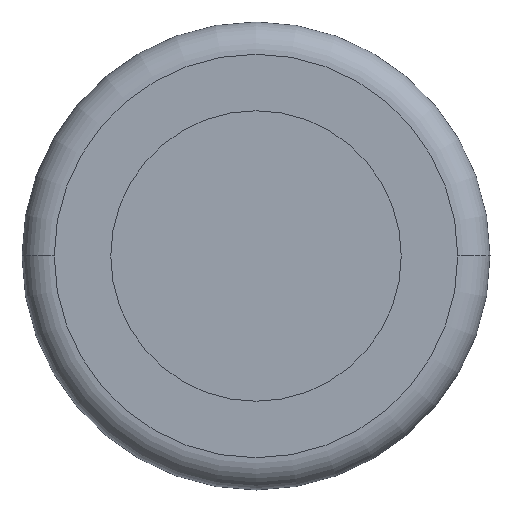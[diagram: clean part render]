
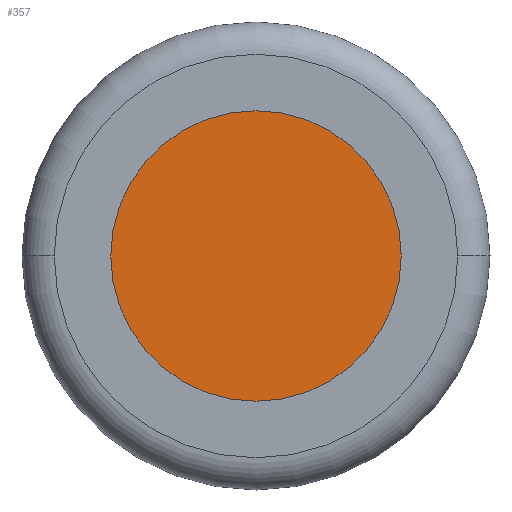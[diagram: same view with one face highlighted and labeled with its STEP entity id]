
A CAD part, front view. The second image highlights one B-rep face of the part: STEP entity #357.
In plain terms, the highlighted planar face has unit normal (0, -1, 0).
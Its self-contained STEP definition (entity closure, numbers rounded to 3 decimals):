
#303=CARTESIAN_POINT('',(47.779,27.5,-3.5));
#304=VERTEX_POINT('',#303);
#312=CARTESIAN_POINT('',(29.779,27.5,-3.5));
#313=VERTEX_POINT('',#312);
#320=CARTESIAN_POINT('',(38.779,27.5,-3.5));
#321=DIRECTION('',(-1.,0.,0.));
#322=DIRECTION('',(0.,1.,0.));
#323=AXIS2_PLACEMENT_3D('',#320,#322,#321);
#324=CIRCLE('',#323,9.);
#325=EDGE_CURVE('',#313,#304,#324,.T.);
#336=CARTESIAN_POINT('',(38.779,27.5,-3.5));
#337=DIRECTION('',(1.,0.,0.));
#338=DIRECTION('',(0.,1.,0.));
#339=AXIS2_PLACEMENT_3D('',#336,#338,#337);
#340=CIRCLE('',#339,9.);
#341=EDGE_CURVE('',#304,#313,#340,.T.);
#348=CARTESIAN_POINT('',(38.779,27.5,-3.5));
#349=DIRECTION('',(-1.,0.,0.));
#350=DIRECTION('',(-0.,-1.,-0.));
#351=AXIS2_PLACEMENT_3D('',#348,#350,#349);
#352=PLANE('',#351);
#353=ORIENTED_EDGE('',*,*,#325,.F.);
#354=ORIENTED_EDGE('',*,*,#341,.F.);
#355=EDGE_LOOP('',(#353,#354));
#356=FACE_OUTER_BOUND('',#355,.T.);
#357=ADVANCED_FACE('F13',(#356),#352,.T.);
